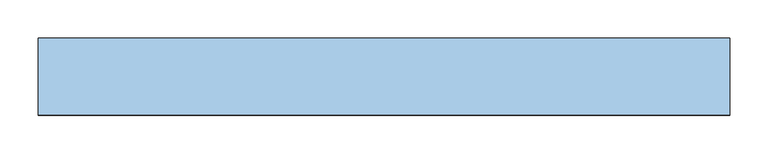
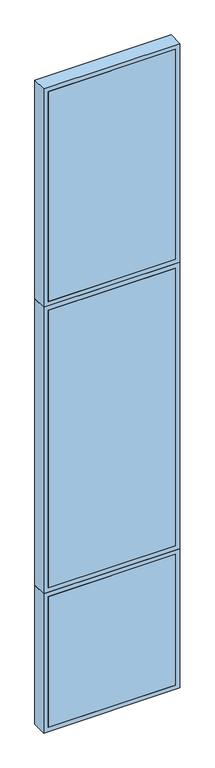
"""IFC4 building model written with IfcOpenShell, lengths in millimetres: window geometry, TRP_CP_ARC_FI_V1 : AL_P01_90."""

from ifc_helpers import new_model, si_unit, frame, origin, place, context, project, spatial, polyline, outline, extrude, source, transform, mapped, element, save


def window_b5501017(model_context):
    return source(origin(), model_context, "Body", "SweptSolid", [
        extrude(outline(polyline([(420.0, -50.0), (-420.0, -50.0), (-420.0, -30.0), (420.0, -30.0), (420.0, -50.0)])), frame((0.0, 0.0, 30.0), z_axis=(0.0, 0.0, 1.0), x_axis=(1.0, 0.0, 0.0)), (0.0, 0.0, 1.0), 913.0),
        extrude(outline(polyline([(973.0, 450.0), (973.0, -450.0), (0.0, -450.0), (0.0, 450.0), (973.0, 450.0)]), holes=[polyline([(30.0, 420.0), (30.0, -420.0), (943.0, -420.0), (943.0, 420.0), (30.0, 420.0)])]), frame((0.0, -50.0, 0.0), z_axis=(0.0, 1.0, 0.0), x_axis=(0.0, 0.0, 1.0)), (0.0, 0.0, 1.0), 100.0),
        extrude(outline(polyline([(2973.0, 450.0), (2973.0, -450.0), (973.0, -450.0), (973.0, 450.0), (2973.0, 450.0)]), holes=[polyline([(1003.0, 420.0), (1003.0, -420.0), (2943.0, -420.0), (2943.0, 420.0), (1003.0, 420.0)])]), frame((0.0, -50.0, 0.0), z_axis=(0.0, 1.0, 0.0), x_axis=(0.0, 0.0, 1.0)), (0.0, 0.0, 1.0), 100.0),
        extrude(outline(polyline([(420.0, -50.0), (-420.0, -50.0), (-420.0, -30.0), (420.0, -30.0), (420.0, -50.0)])), frame((0.0, 0.0, 1003.0), z_axis=(0.0, 0.0, 1.0), x_axis=(1.0, 0.0, 0.0)), (0.0, 0.0, 1.0), 1940.0),
        extrude(outline(polyline([(4500.0, 450.0), (4500.0, -450.0), (2973.0, -450.0), (2973.0, 450.0), (4500.0, 450.0)]), holes=[polyline([(3003.0, 420.0), (3003.0, -420.0), (4470.0, -420.0), (4470.0, 420.0), (3003.0, 420.0)])]), frame((0.0, -50.0, 0.0), z_axis=(0.0, 1.0, 0.0), x_axis=(0.0, 0.0, 1.0)), (0.0, 0.0, 1.0), 100.0),
        extrude(outline(polyline([(420.0, -50.0), (-420.0, -50.0), (-420.0, -30.0), (420.0, -30.0), (420.0, -50.0)])), frame((0.0, 0.0, 3003.0), z_axis=(0.0, 0.0, 1.0), x_axis=(1.0, 0.0, 0.0)), (0.0, 0.0, 1.0), 1467.0),
    ])


if __name__ == "__main__":
    model = new_model("IFC4")
    model_context = context("Model", 3, world=origin())
    ifc_project = project(units=[si_unit("LENGTHUNIT", "METRE", prefix="MILLI")], contexts=[model_context])
    site = spatial("IfcSite", under=ifc_project)
    building = spatial("IfcBuilding", under=site)
    placement = place(None, origin())
    window_shape = window_b5501017(model_context)
    element("IfcWindow", 1, ObjectType="TRP_CP_ARC_FI_V1 : AL_P01_90", at=placement, inside=building, context=model_context, shape_type="MappedRepresentation", body=[
        mapped(window_shape, transform((0.0, 0.0, 0.0), x_axis=(1.0, 0.0, 0.0), y_axis=(0.0, 1.0, 0.0), z_axis=(0.0, 0.0, 1.0))),
    ])
    save(model, "model.ifc")
